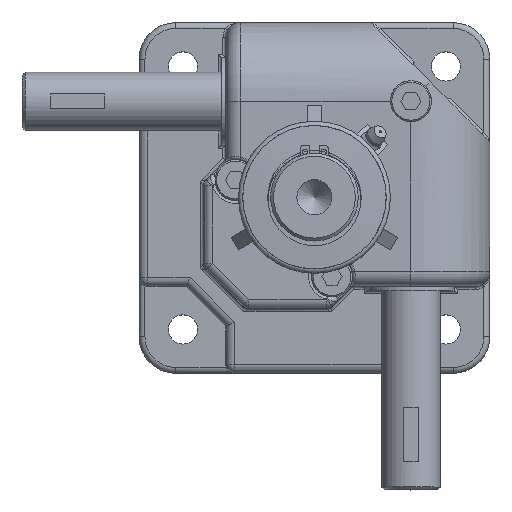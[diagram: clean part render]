
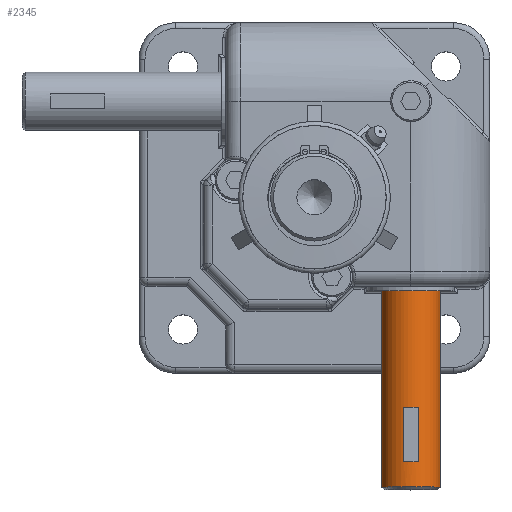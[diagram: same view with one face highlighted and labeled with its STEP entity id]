
A CAD part, top view. The second image highlights one B-rep face of the part: STEP entity #2345.
In plain terms, the highlighted cylindrical face has radius 10 mm (diameter 20 mm), a full revolution.
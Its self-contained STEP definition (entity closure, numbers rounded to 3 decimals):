
#2345=ADVANCED_FACE('',(#6189,#6190,#6191,#6192),#6193,.T.);
#6189=FACE_OUTER_BOUND('',#12407,.T.);
#6190=FACE_OUTER_BOUND('',#12408,.T.);
#6191=FACE_BOUND('',#12409,.T.);
#6192=FACE_BOUND('',#12410,.T.);
#6193=CYLINDRICAL_SURFACE('',#12411,10.0);
#12407=EDGE_LOOP('',(#26369));
#12408=EDGE_LOOP('',(#26370));
#12409=EDGE_LOOP('',(#26371,#26372,#26373,#26374));
#12410=EDGE_LOOP('',(#26375,#26376,#26377,#26378));
#12411=AXIS2_PLACEMENT_3D('',#26379,#26380,#26381);
#26369=ORIENTED_EDGE('',*,*,#47927,.F.);
#26370=ORIENTED_EDGE('',*,*,#47928,.T.);
#26371=ORIENTED_EDGE('',*,*,#47929,.F.);
#26372=ORIENTED_EDGE('',*,*,#47930,.F.);
#26373=ORIENTED_EDGE('',*,*,#47931,.T.);
#26374=ORIENTED_EDGE('',*,*,#47932,.T.);
#26375=ORIENTED_EDGE('',*,*,#47933,.F.);
#26376=ORIENTED_EDGE('',*,*,#47934,.F.);
#26377=ORIENTED_EDGE('',*,*,#47935,.T.);
#26378=ORIENTED_EDGE('',*,*,#47936,.T.);
#26379=CARTESIAN_POINT('',(0.0,0.0,0.0));
#26380=DIRECTION('',(1.0,-0.0,0.));
#26381=DIRECTION('',(0.0,1.0,0.0));
#47927=EDGE_CURVE('',#58647,#58647,#58648,.T.);
#47928=EDGE_CURVE('',#58649,#58649,#58650,.T.);
#47929=EDGE_CURVE('',#58651,#58652,#58653,.T.);
#47930=EDGE_CURVE('',#58654,#58651,#58655,.F.);
#47931=EDGE_CURVE('',#58654,#58656,#58657,.T.);
#47932=EDGE_CURVE('',#58656,#58652,#58658,.F.);
#47933=EDGE_CURVE('',#58659,#58660,#58661,.T.);
#47934=EDGE_CURVE('',#58662,#58659,#58663,.F.);
#47935=EDGE_CURVE('',#58662,#58664,#58665,.T.);
#47936=EDGE_CURVE('',#58664,#58660,#58666,.F.);
#58647=VERTEX_POINT('',#78427);
#58648=CIRCLE('',#78428,10.0);
#58649=VERTEX_POINT('',#78429);
#58650=CIRCLE('',#78430,10.0);
#58651=VERTEX_POINT('',#78431);
#58652=VERTEX_POINT('',#78432);
#58653=LINE('',#78433,#78434);
#58654=VERTEX_POINT('',#78435);
#58655=B_SPLINE_CURVE_WITH_KNOTS('',3,(#78436,#78437,#78438,#78439,#78440,#78441,#78442,#78443,#78444,#78445),.UNSPECIFIED.,.F.,.F.,(4,2,2,2,4),(0.045,0.046,0.047,0.048,0.05),.UNSPECIFIED.);
#58656=VERTEX_POINT('',#78446);
#58657=LINE('',#78447,#78448);
#58658=B_SPLINE_CURVE_WITH_KNOTS('',3,(#78449,#78450,#78451,#78452,#78453,#78454,#78455,#78456),.UNSPECIFIED.,.F.,.F.,(4,2,2,4),(0.06,0.062,0.063,0.065),.UNSPECIFIED.);
#58659=VERTEX_POINT('',#78457);
#58660=VERTEX_POINT('',#78458);
#58661=LINE('',#78459,#78460);
#58662=VERTEX_POINT('',#78461);
#58663=B_SPLINE_CURVE_WITH_KNOTS('',3,(#78462,#78463,#78464,#78465,#78466,#78467,#78468,#78469,#78470,#78471),.UNSPECIFIED.,.F.,.F.,(4,2,2,2,4),(0.045,0.046,0.047,0.048,0.05),.UNSPECIFIED.);
#58664=VERTEX_POINT('',#78472);
#58665=LINE('',#78473,#78474);
#58666=B_SPLINE_CURVE_WITH_KNOTS('',3,(#78475,#78476,#78477,#78478,#78479,#78480,#78481,#78482),.UNSPECIFIED.,.F.,.F.,(4,2,2,4),(0.06,0.062,0.063,0.065),.UNSPECIFIED.);
#78427=CARTESIAN_POINT('',(58.35,10.0,0.));
#78428=AXIS2_PLACEMENT_3D('',#109750,#109751,#109752);
#78429=CARTESIAN_POINT('',(-58.35,10.0,0.));
#78430=AXIS2_PLACEMENT_3D('',#109753,#109754,#109755);
#78431=CARTESIAN_POINT('',(48.812,2.5,9.682));
#78432=CARTESIAN_POINT('',(31.888,2.5,9.682));
#78433=CARTESIAN_POINT('',(40.35,2.5,9.682));
#78434=VECTOR('',#109756,1.0);
#78435=CARTESIAN_POINT('',(48.812,-2.5,9.682));
#78436=CARTESIAN_POINT('',(48.812,2.5,9.682));
#78437=CARTESIAN_POINT('',(48.865,2.096,9.787));
#78438=CARTESIAN_POINT('',(48.904,1.681,9.867));
#78439=CARTESIAN_POINT('',(48.955,0.84,9.974));
#78440=CARTESIAN_POINT('',(48.967,0.419,10.));
#78441=CARTESIAN_POINT('',(48.967,-0.421,10.));
#78442=CARTESIAN_POINT('',(48.955,-0.841,9.974));
#78443=CARTESIAN_POINT('',(48.904,-1.68,9.867));
#78444=CARTESIAN_POINT('',(48.865,-2.096,9.787));
#78445=CARTESIAN_POINT('',(48.812,-2.5,9.682));
#78446=CARTESIAN_POINT('',(31.888,-2.5,9.682));
#78447=CARTESIAN_POINT('',(40.35,-2.5,9.682));
#78448=VECTOR('',#109757,1.0);
#78449=CARTESIAN_POINT('',(31.888,2.5,9.682));
#78450=CARTESIAN_POINT('',(31.834,2.095,9.787));
#78451=CARTESIAN_POINT('',(31.796,1.683,9.866));
#78452=CARTESIAN_POINT('',(31.746,0.846,9.973));
#78453=CARTESIAN_POINT('',(31.733,0.419,10.));
#78454=CARTESIAN_POINT('',(31.733,-0.857,9.999));
#78455=CARTESIAN_POINT('',(31.781,-1.688,9.892));
#78456=CARTESIAN_POINT('',(31.888,-2.5,9.682));
#78457=CARTESIAN_POINT('',(-31.888,2.5,9.682));
#78458=CARTESIAN_POINT('',(-48.812,2.5,9.682));
#78459=CARTESIAN_POINT('',(-40.35,2.5,9.682));
#78460=VECTOR('',#109758,1.0);
#78461=CARTESIAN_POINT('',(-31.888,-2.5,9.682));
#78462=CARTESIAN_POINT('',(-31.888,2.5,9.682));
#78463=CARTESIAN_POINT('',(-31.835,2.096,9.787));
#78464=CARTESIAN_POINT('',(-31.796,1.681,9.867));
#78465=CARTESIAN_POINT('',(-31.745,0.84,9.974));
#78466=CARTESIAN_POINT('',(-31.733,0.419,10.));
#78467=CARTESIAN_POINT('',(-31.733,-0.421,10.));
#78468=CARTESIAN_POINT('',(-31.745,-0.841,9.974));
#78469=CARTESIAN_POINT('',(-31.796,-1.68,9.867));
#78470=CARTESIAN_POINT('',(-31.835,-2.096,9.787));
#78471=CARTESIAN_POINT('',(-31.888,-2.5,9.682));
#78472=CARTESIAN_POINT('',(-48.812,-2.5,9.682));
#78473=CARTESIAN_POINT('',(-40.35,-2.5,9.682));
#78474=VECTOR('',#109759,1.0);
#78475=CARTESIAN_POINT('',(-48.812,2.5,9.682));
#78476=CARTESIAN_POINT('',(-48.866,2.095,9.787));
#78477=CARTESIAN_POINT('',(-48.904,1.683,9.866));
#78478=CARTESIAN_POINT('',(-48.954,0.846,9.973));
#78479=CARTESIAN_POINT('',(-48.967,0.419,10.));
#78480=CARTESIAN_POINT('',(-48.967,-0.857,9.999));
#78481=CARTESIAN_POINT('',(-48.919,-1.688,9.892));
#78482=CARTESIAN_POINT('',(-48.812,-2.5,9.682));
#109750=CARTESIAN_POINT('',(58.35,0.,0.));
#109751=DIRECTION('',(1.0,0.,0.));
#109752=DIRECTION('',(0.,1.0,0.));
#109753=CARTESIAN_POINT('',(-58.35,0.0,0.));
#109754=DIRECTION('',(1.0,-0.0,0.));
#109755=DIRECTION('',(0.0,1.0,0.0));
#109756=DIRECTION('',(-1.0,0.0,0.0));
#109757=DIRECTION('',(-1.0,0.0,0.0));
#109758=DIRECTION('',(-1.0,0.0,0.0));
#109759=DIRECTION('',(-1.0,0.0,0.0));
